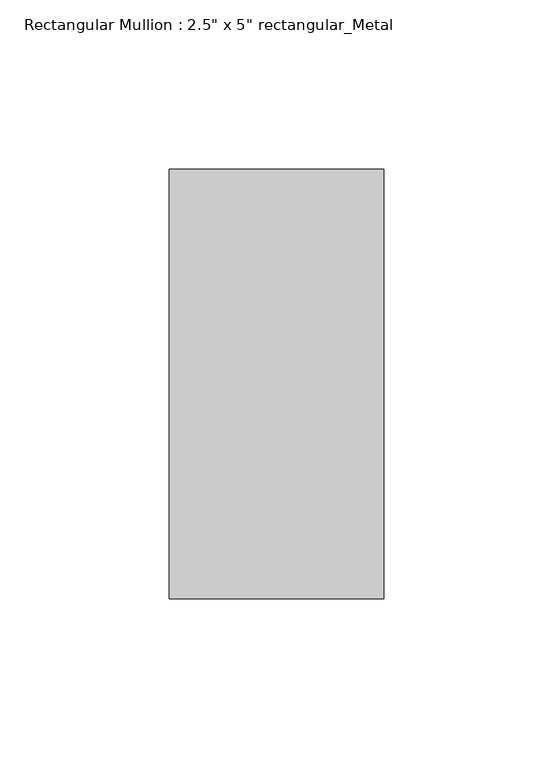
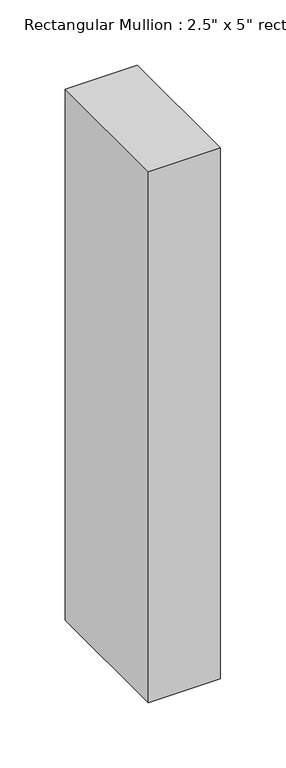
"""IFC4 building model written with IfcOpenShell, lengths in millimetres: member geometry."""

from ifc_helpers import new_model, si_unit, frame, origin, place, context, project, spatial, polyline, outline, extrude, source, transform, mapped, element, save


def member_2ebf4a73(model_context):
    return source(origin(), model_context, "Body", "SweptSolid", [
        extrude(outline(polyline([(0.0, 63.5), (0.0, -63.5), (-63.5, -63.5), (-63.5, 63.5), (0.0, 63.5)])), frame((0.0, 0.0, -495.3), z_axis=(0.0, 0.0, 1.0), x_axis=(1.0, 0.0, 0.0)), (0.0, 0.0, 1.0), 495.3),
    ])


if __name__ == "__main__":
    model = new_model("IFC4")
    model_context = context("Model", 3, world=origin())
    ifc_project = project(units=[si_unit("LENGTHUNIT", "METRE", prefix="MILLI")], contexts=[model_context])
    site = spatial("IfcSite", under=ifc_project)
    building = spatial("IfcBuilding", under=site)
    placement = place(None, origin())
    member_shape = member_2ebf4a73(model_context)
    element("IfcMember", 1, ObjectType="Rectangular Mullion : 2.5\" x 5\" rectangular_Metal", at=placement, inside=building, context=model_context, shape_type="MappedRepresentation", body=[
        mapped(member_shape, transform((0.0, 0.0, 0.0), x_axis=(1.0, 0.0, 0.0), y_axis=(0.0, 1.0, 0.0), z_axis=(0.0, 0.0, 1.0))),
    ])
    save(model, "model.ifc")
